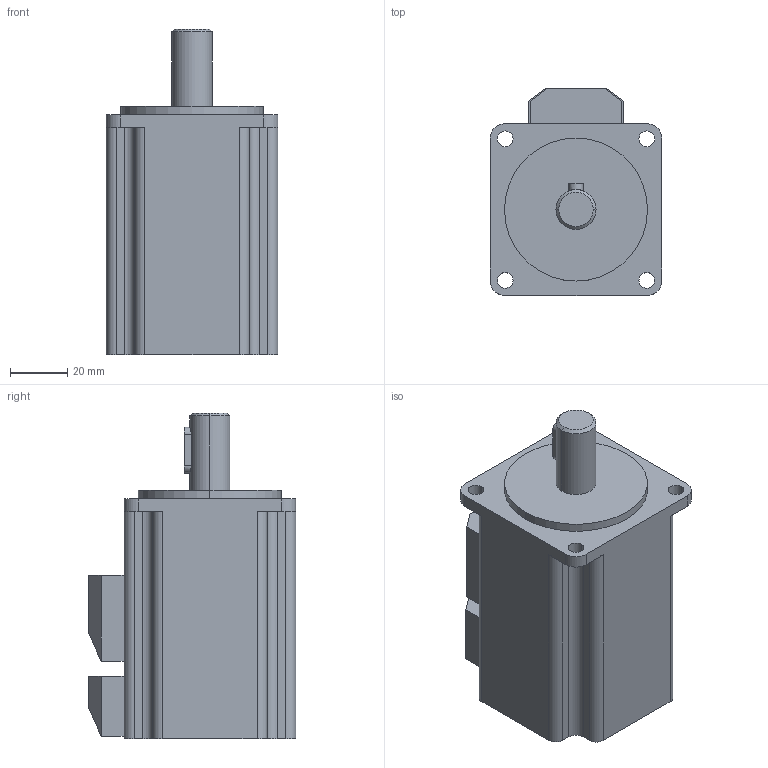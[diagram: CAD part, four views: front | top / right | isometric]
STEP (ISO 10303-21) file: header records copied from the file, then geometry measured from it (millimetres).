
FILE_DESCRIPTION (( 'STEP AP203' ), '1' );
FILE_NAME ('307080057 SMS060-02030D10M0BL-M01.STEP', '2022-05-12T07:33:47', ( 'Windows 蚚誧' ), ( 'Organization' ), 'SwSTEP 2.0', 'SolidWorks 2018', '' );
FILE_SCHEMA (( 'CONFIG_CONTROL_DESIGN' ));
Length unit declared in the file: millimetre
Products named in the file (1): 307080057 SMS060-02030D10M0BL-M01
Bounding box: 60 x 72.5 x 114 mm (x, y, z)
Volume: 297608.5 mm3; surface area: 29954.3 mm2
Topology: 1 solids, 1 shells, 73 faces, 191 edges, 124 vertices
Faces by surface type: plane 40, cylinder 31, cone 2
Entity records: 2398 total; most frequent: CARTESIAN_POINT 454, DIRECTION 397, ORIENTED_EDGE 382, EDGE_CURVE 191, AXIS2_PLACEMENT_3D 135, VECTOR 127, LINE 127, VERTEX_POINT 124
